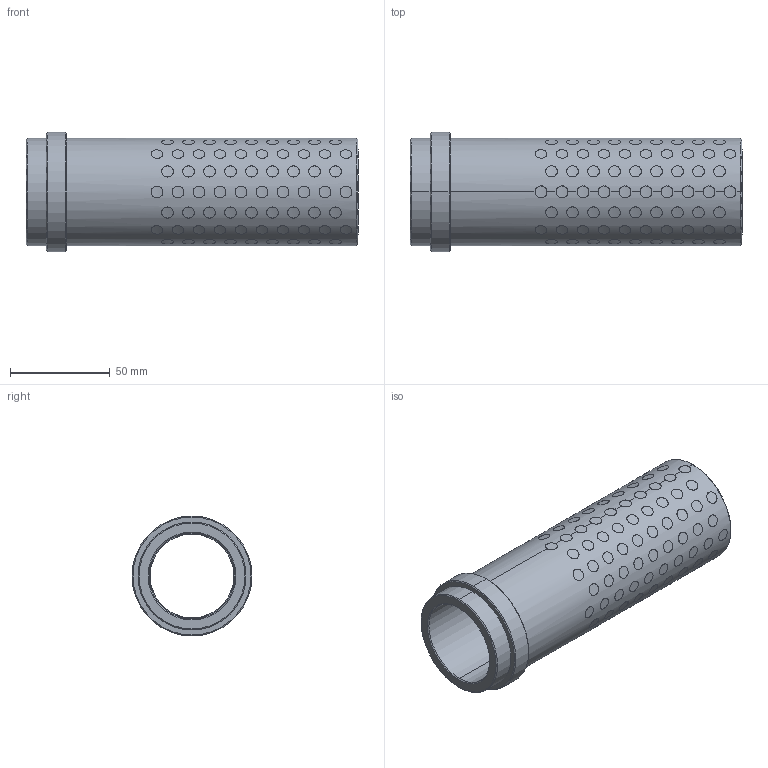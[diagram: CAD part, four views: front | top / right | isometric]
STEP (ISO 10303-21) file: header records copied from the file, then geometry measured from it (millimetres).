
FILE_DESCRIPTION((''),'2;1');
FILE_NAME('G31242156','2017-12-31T',('MANU'),(''),'PRO/ENGINEER BY PARAMETRIC TECHNOLOGY CORPORATION, 2012130','PRO/ENGINEER BY PARAMETRIC TECHNOLOGY CORPORATION, 2012130','');
FILE_SCHEMA(('CONFIG_CONTROL_DESIGN'));
Products named in the file (1): G31242156
Bounding box: 166 x 60 x 60 mm (x, y, z)
Volume: 151007.5 mm3; surface area: 87267.8 mm2
Topology: 153 solids, 153 shells, 939 faces, 1998 edges, 1328 vertices
Faces by surface type: cylinder 922, cone 12, plane 5
Entity records: 49478 total; most frequent: CARTESIAN_POINT 31261, ORIENTED_EDGE 3996, DIRECTION 2612, EDGE_CURVE 1998, VERTEX_POINT 1328, B_SPLINE_CURVE_WITH_KNOTS 1296, EDGE_LOOP 1208, AXIS2_PLACEMENT_3D 971
